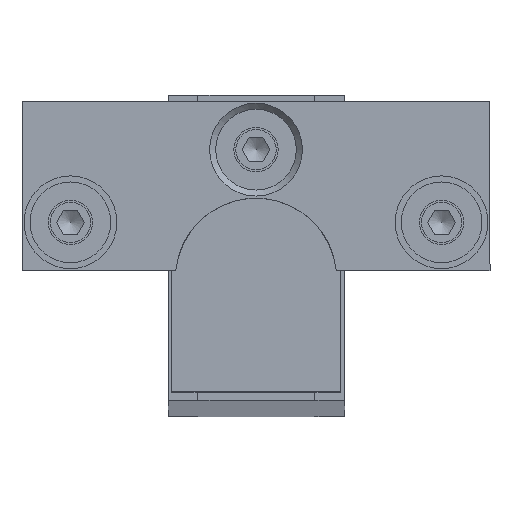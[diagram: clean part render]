
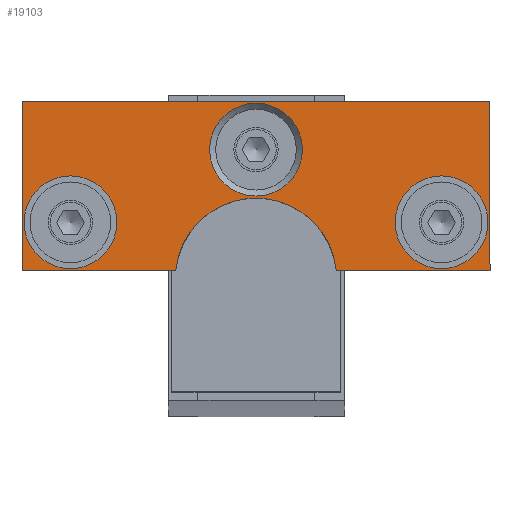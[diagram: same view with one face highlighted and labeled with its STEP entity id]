
A CAD part, top view. The second image highlights one B-rep face of the part: STEP entity #19103.
In plain terms, the highlighted planar face has unit normal (0, 0, 1).
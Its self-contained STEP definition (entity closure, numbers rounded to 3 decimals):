
#267=FACE_BOUND('',#2523,.T.);
#268=FACE_BOUND('',#2524,.T.);
#269=FACE_BOUND('',#2525,.T.);
#545=PLANE('',#20629);
#1400=FACE_OUTER_BOUND('',#2522,.T.);
#2522=EDGE_LOOP('',(#13218,#13219,#13220,#13221,#13222,#13223));
#2523=EDGE_LOOP('',(#13224));
#2524=EDGE_LOOP('',(#13225));
#2525=EDGE_LOOP('',(#13226));
#3963=LINE('',#32403,#4745);
#3964=LINE('',#32405,#4746);
#3965=LINE('',#32407,#4747);
#3966=LINE('',#32411,#4748);
#3967=LINE('',#32412,#4749);
#4745=VECTOR('',#24202,10.);
#4746=VECTOR('',#24203,10.);
#4747=VECTOR('',#24204,10.);
#4748=VECTOR('',#24207,10.);
#4749=VECTOR('',#24208,10.);
#5682=CIRCLE('',#20627,5.75);
#5684=CIRCLE('',#20630,10.);
#5685=CIRCLE('',#20631,5.75);
#5686=CIRCLE('',#20632,5.75);
#7535=VERTEX_POINT('',#32395);
#7537=VERTEX_POINT('',#32401);
#7538=VERTEX_POINT('',#32402);
#7539=VERTEX_POINT('',#32404);
#7540=VERTEX_POINT('',#32406);
#7541=VERTEX_POINT('',#32408);
#7542=VERTEX_POINT('',#32410);
#7543=VERTEX_POINT('',#32413);
#7544=VERTEX_POINT('',#32415);
#9784=EDGE_CURVE('',#7535,#7535,#5682,.T.);
#9787=EDGE_CURVE('',#7537,#7538,#3963,.T.);
#9788=EDGE_CURVE('',#7538,#7539,#3964,.T.);
#9789=EDGE_CURVE('',#7539,#7540,#3965,.T.);
#9790=EDGE_CURVE('',#7540,#7541,#5684,.T.);
#9791=EDGE_CURVE('',#7541,#7542,#3966,.T.);
#9792=EDGE_CURVE('',#7542,#7537,#3967,.T.);
#9793=EDGE_CURVE('',#7543,#7543,#5685,.T.);
#9794=EDGE_CURVE('',#7544,#7544,#5686,.T.);
#13218=ORIENTED_EDGE('',*,*,#9787,.T.);
#13219=ORIENTED_EDGE('',*,*,#9788,.T.);
#13220=ORIENTED_EDGE('',*,*,#9789,.T.);
#13221=ORIENTED_EDGE('',*,*,#9790,.T.);
#13222=ORIENTED_EDGE('',*,*,#9791,.T.);
#13223=ORIENTED_EDGE('',*,*,#9792,.T.);
#13224=ORIENTED_EDGE('',*,*,#9793,.F.);
#13225=ORIENTED_EDGE('',*,*,#9794,.F.);
#13226=ORIENTED_EDGE('',*,*,#9784,.F.);
#19103=ADVANCED_FACE('',(#1400,#267,#268,#269),#545,.T.);
#20627=AXIS2_PLACEMENT_3D('',#32396,#24195,#24196);
#20629=AXIS2_PLACEMENT_3D('',#32400,#24200,#24201);
#20630=AXIS2_PLACEMENT_3D('',#32409,#24205,#24206);
#20631=AXIS2_PLACEMENT_3D('',#32414,#24209,#24210);
#20632=AXIS2_PLACEMENT_3D('',#32416,#24211,#24212);
#24195=DIRECTION('center_axis',(0.,0.,
1.));
#24196=DIRECTION('ref_axis',(-1.,0.,0.));
#24200=DIRECTION('center_axis',(0.,0.,
1.));
#24201=DIRECTION('ref_axis',(1.,0.,0.));
#24202=DIRECTION('',(-1.,0.,0.));
#24203=DIRECTION('',(0.,-1.,0.));
#24204=DIRECTION('',(1.,0.,0.));
#24205=DIRECTION('center_axis',(0.,0.,
-1.));
#24206=DIRECTION('ref_axis',(0.995,0.1,0.));
#24207=DIRECTION('',(1.,0.,0.));
#24208=DIRECTION('',(0.,1.,0.));
#24209=DIRECTION('center_axis',(0.,0.,
1.));
#24210=DIRECTION('ref_axis',(-1.,0.,0.));
#24211=DIRECTION('center_axis',(0.,0.,
1.));
#24212=DIRECTION('ref_axis',(-1.,0.,0.));
#32395=CARTESIAN_POINT('',(39.65,22.,336.));
#32396=CARTESIAN_POINT('Origin',(33.9,22.,336.));
#32400=CARTESIAN_POINT('Origin',(10.9,27.153,336.));
#32401=CARTESIAN_POINT('',(39.9,37.,336.));
#32402=CARTESIAN_POINT('',(-18.1,37.,336.));
#32403=CARTESIAN_POINT('',(-18.1,37.,336.));
#32404=CARTESIAN_POINT('',(-18.1,16.,336.));
#32405=CARTESIAN_POINT('',(-18.1,16.,336.));
#32406=CARTESIAN_POINT('',(0.95,16.,336.));
#32407=CARTESIAN_POINT('',(0.95,16.,336.));
#32408=CARTESIAN_POINT('',(20.85,16.,336.));
#32409=CARTESIAN_POINT('Origin',(10.9,15.,336.));
#32410=CARTESIAN_POINT('',(39.9,16.,336.));
#32411=CARTESIAN_POINT('',(39.9,16.,336.));
#32412=CARTESIAN_POINT('',(39.9,37.,336.));
#32413=CARTESIAN_POINT('',(16.65,31.,336.));
#32414=CARTESIAN_POINT('Origin',(10.9,31.,336.));
#32415=CARTESIAN_POINT('',(-6.35,22.,336.));
#32416=CARTESIAN_POINT('Origin',(-12.1,22.,336.));
